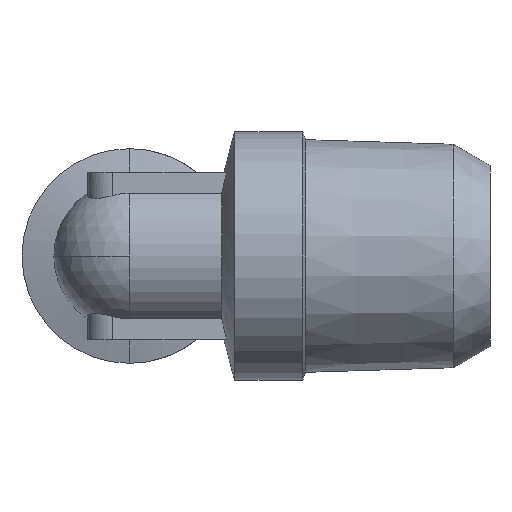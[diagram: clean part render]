
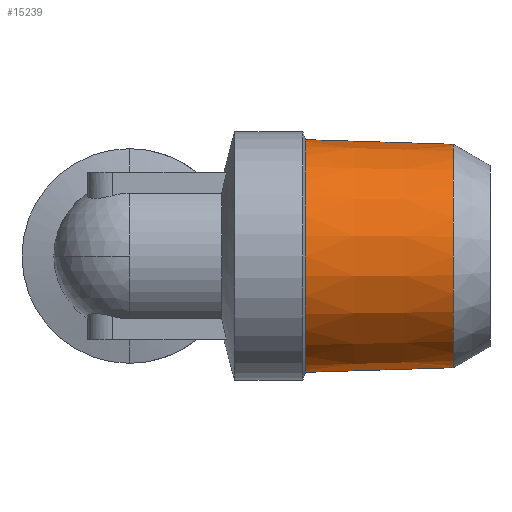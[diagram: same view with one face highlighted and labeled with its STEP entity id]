
A CAD part, left-side view. The second image highlights one B-rep face of the part: STEP entity #15239.
In plain terms, the highlighted conical face has half-angle 1.788 degrees and reference radius 6.66 mm.
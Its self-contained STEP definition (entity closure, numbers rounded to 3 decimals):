
#1944 = VECTOR ( 'NONE', #10961, 1000. ) ;
#2464 = LINE ( 'NONE', #14195, #5639 ) ;
#3195 = ORIENTED_EDGE ( 'NONE', *, *, #5183, .T. ) ;
#3462 = AXIS2_PLACEMENT_3D ( 'NONE', #11654, #3532, #13030 ) ;
#3532 = DIRECTION ( 'NONE',  ( 0., -1., 0. ) ) ;
#4239 = CARTESIAN_POINT ( 'NONE',  ( 0., -19.318, -6.66 ) ) ;
#4669 = CIRCLE ( 'NONE', #3462, 6.935 ) ;
#5092 = EDGE_LOOP ( 'NONE', ( #10482, #11861, #3195, #12624 ) ) ;
#5178 = CARTESIAN_POINT ( 'NONE',  ( 0., -10.5, 6.935 ) ) ;
#5183 = EDGE_CURVE ( 'NONE', #7735, #16271, #2464, .T. ) ;
#5639 = VECTOR ( 'NONE', #12830, 1000. ) ;
#6276 = DIRECTION ( 'NONE',  ( 0., 1., 0. ) ) ;
#6633 = DIRECTION ( 'NONE',  ( 0., -1., 0. ) ) ;
#7396 = CONICAL_SURFACE ( 'NONE', #9285, 6.66, 0.031 ) ;
#7735 = VERTEX_POINT ( 'NONE', #11371 ) ;
#7873 = EDGE_CURVE ( 'NONE', #16271, #11924, #4669, .T. ) ;
#9285 = AXIS2_PLACEMENT_3D ( 'NONE', #14438, #6276, #11749 ) ;
#10158 = CIRCLE ( 'NONE', #17114, 6.66 ) ;
#10482 = ORIENTED_EDGE ( 'NONE', *, *, #10767, .F. ) ;
#10615 = VERTEX_POINT ( 'NONE', #13348 ) ;
#10767 = EDGE_CURVE ( 'NONE', #10615, #11924, #12358, .T. ) ;
#10961 = DIRECTION ( 'NONE',  ( 0., 1., -0.031 ) ) ;
#11371 = CARTESIAN_POINT ( 'NONE',  ( 0., -19.318, 6.66 ) ) ;
#11639 = EDGE_CURVE ( 'NONE', #7735, #10615, #10158, .T. ) ;
#11654 = CARTESIAN_POINT ( 'NONE',  ( 0., -10.5, 0. ) ) ;
#11749 = DIRECTION ( 'NONE',  ( 0., 0., 1. ) ) ;
#11861 = ORIENTED_EDGE ( 'NONE', *, *, #11639, .F. ) ;
#11924 = VERTEX_POINT ( 'NONE', #13974 ) ;
#12358 = LINE ( 'NONE', #4239, #1944 ) ;
#12624 = ORIENTED_EDGE ( 'NONE', *, *, #7873, .T. ) ;
#12830 = DIRECTION ( 'NONE',  ( 0., 1., 0.031 ) ) ;
#13030 = DIRECTION ( 'NONE',  ( 0., 0., -1. ) ) ;
#13348 = CARTESIAN_POINT ( 'NONE',  ( 0., -19.318, -6.66 ) ) ;
#13974 = CARTESIAN_POINT ( 'NONE',  ( 0., -10.5, -6.935 ) ) ;
#14195 = CARTESIAN_POINT ( 'NONE',  ( 0., -19.318, 6.66 ) ) ;
#14438 = CARTESIAN_POINT ( 'NONE',  ( 0., -19.318, 0. ) ) ;
#14796 = CARTESIAN_POINT ( 'NONE',  ( 0., -19.318, 0. ) ) ;
#15239 = ADVANCED_FACE ( 'NONE', ( #16371 ), #7396, .T. ) ;
#16173 = DIRECTION ( 'NONE',  ( 0., 0., -1. ) ) ;
#16271 = VERTEX_POINT ( 'NONE', #5178 ) ;
#16371 = FACE_OUTER_BOUND ( 'NONE', #5092, .T. ) ;
#17114 = AXIS2_PLACEMENT_3D ( 'NONE', #14796, #6633, #16173 ) ;
